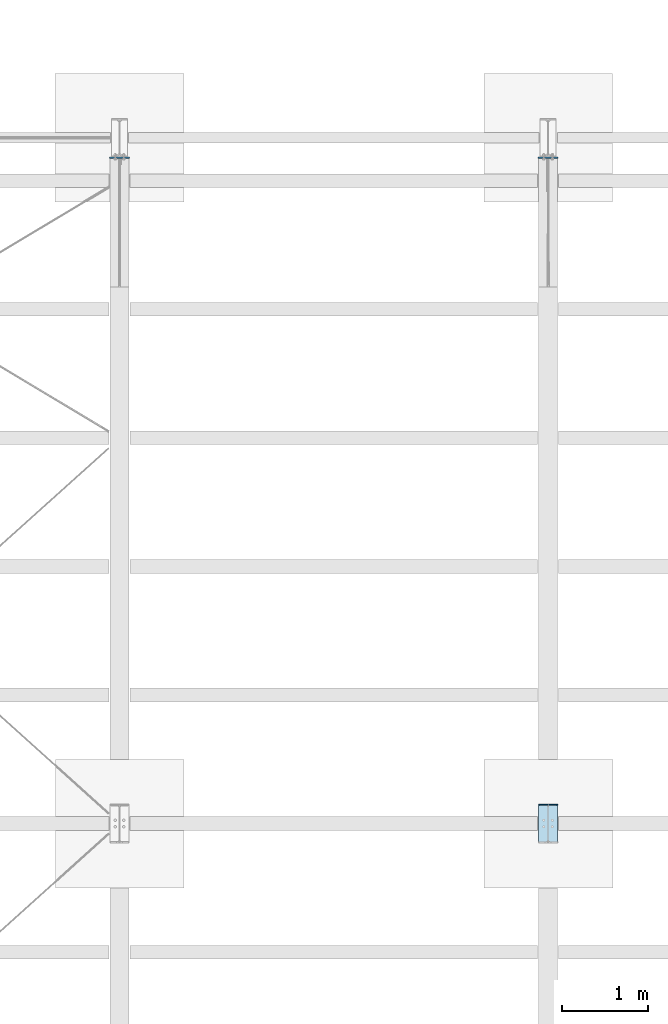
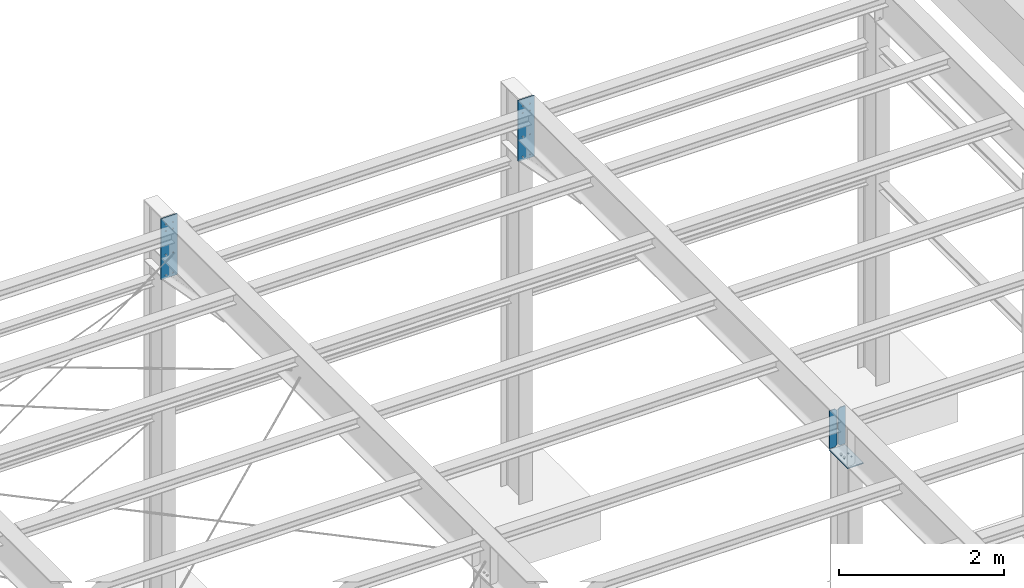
# Not in any storey, part 9 of 50: 5 plates, 24 openings.
"""IFC4 model written with IfcOpenShell, lengths in metres."""

from ifc_helpers import new_model, entity, si_unit, converted_unit, derived_unit, direction, frame, frame_2d, origin, origin_with_axes, origin_2d_with_axis, place, context, project, spatial, polyline, circle, outline, extrude, material, layer, layer_set, element, save


model = new_model("IFC4")

# Units and contexts
model_context = context("Model", 3, precision=1e-05, world=origin(), true_north=direction((6.123233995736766e-17, 1.0)))
ifc_project = project(units=[si_unit("LENGTHUNIT", "METRE"), si_unit("AREAUNIT", "SQUARE_METRE"), converted_unit("PLANEANGLEUNIT", "DEGREE", entity("IfcPlaneAngleMeasure", 0.017453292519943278), si_unit("PLANEANGLEUNIT", "RADIAN"), dimensions=[0, 0, 0, 0, 0, 0, 0]), si_unit("VOLUMEUNIT", "CUBIC_METRE"), derived_unit("THERMALTRANSMITTANCEUNIT", [(si_unit("MASSUNIT", "GRAM", prefix="KILO"), 1), (si_unit("THERMODYNAMICTEMPERATUREUNIT", "KELVIN"), -1), (si_unit("TIMEUNIT", "SECOND"), -3)])], contexts=[model_context])

# Site
site_placement = place(None, origin())
site = spatial("IfcSite", under=ifc_project, at=site_placement, Name="Default", CompositionType="ELEMENT")

# Plate, openings
ifc_material = material(Name="Dachdeckung - Blechdach")
ifc_layer_1 = layer(ifc_material, 15.0)
ifc_layer_set_1 = layer_set([ifc_layer_1], Name="Dachdeckung - Blechdach")
plate_1_placement = place(site_placement, frame((18.080144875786, 9.70476753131, 5.385), z_axis=(0.0, 0.0, 1.0), x_axis=(1.0, 0.0, 0.0)))
plate_1 = element("IfcPlate", 1, at=plate_1_placement, inside=site, material=ifc_layer_set_1, Name="Endplate", ObjectType="Endplate", context=model_context, shape_type="SweptSolid", body=[
    extrude(outline(polyline([(0.0, 0.0), (0.22, 0.0), (0.22, 0.45), (0.0, 0.45), (0.0, 0.0)])), origin_with_axes(), (0.0, 0.0, 1.0), 0.015),
])
opening_1_placement = place(plate_1_placement, frame((0.11, 0.225, -0.0005), z_axis=(0.0, 0.0, 1.0), x_axis=(0.0, 1.0, 0.0)))
element("IfcOpeningElement", 2, at=opening_1_placement, cuts=plate_1, ObjectType="Opening", context=model_context, shape_type="SweptSolid", body=[
    extrude(circle(Radius=0.009000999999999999, at=frame_2d((0.0375, 0.05), x_axis=(1.0, 0.0))), origin(), (0.0, 0.0, 1.0), 0.016),
])
opening_2_placement = place(plate_1_placement, frame((0.11, 0.225, -0.0005), z_axis=(0.0, 0.0, 1.0), x_axis=(0.0, 1.0, 0.0)))
element("IfcOpeningElement", 3, at=opening_2_placement, cuts=plate_1, ObjectType="Opening", context=model_context, shape_type="SweptSolid", body=[
    extrude(circle(Radius=0.009000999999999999, at=frame_2d((-0.0375, 0.05), x_axis=(1.0, 0.0))), origin(), (0.0, 0.0, 1.0), 0.016),
])
opening_3_placement = place(plate_1_placement, frame((0.11, 0.225, -0.0005), z_axis=(0.0, 0.0, 1.0), x_axis=(0.0, 1.0, 0.0)))
element("IfcOpeningElement", 4, at=opening_3_placement, cuts=plate_1, ObjectType="Opening", context=model_context, shape_type="SweptSolid", body=[
    extrude(circle(Radius=0.009000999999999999, at=frame_2d((0.0375, -0.05), x_axis=(1.0, 0.0))), origin(), (0.0, 0.0, 1.0), 0.016),
])
opening_4_placement = place(plate_1_placement, frame((0.11, 0.225, -0.0005), z_axis=(0.0, 0.0, 1.0), x_axis=(0.0, 1.0, 0.0)))
element("IfcOpeningElement", 5, at=opening_4_placement, cuts=plate_1, ObjectType="Opening", context=model_context, shape_type="SweptSolid", body=[
    extrude(circle(Radius=0.009000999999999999, at=frame_2d((-0.0375, -0.05), x_axis=(1.0, 0.0))), origin(), (0.0, 0.0, 1.0), 0.016),
])

ifc_layer_2 = layer(ifc_material, 14.0)
ifc_layer_set_2 = layer_set([ifc_layer_2], Name="Dachdeckung - Blechdach")
plate_2_placement = place(site_placement, frame((18.080144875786, 10.15476753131, 5.419), z_axis=(0.0, -1.0, 0.0), x_axis=(1.0, 0.0, 0.0)))
plate_2 = element("IfcPlate", 6, at=plate_2_placement, inside=site, material=ifc_layer_set_2, Name="Stiffener#1", ObjectType="Stiffener#1", context=model_context, shape_type="SweptSolid", body=[
    extrude(outline(polyline([(0.0, 0.0), (0.104, 0.0), (0.104, 0.562), (0.0, 0.562), (0.0, 0.0)])), origin_with_axes(), (0.0, 0.0, 1.0), 0.014),
])
opening_5_placement = place(plate_2_placement, frame((0.0, 0.0, -1e-05), z_axis=(0.0, 0.0, 1.0), x_axis=(1.0, 0.0, 0.0)))
element("IfcOpeningElement", 7, at=opening_5_placement, cuts=plate_2, ObjectType="Opening", context=model_context, shape_type="SweptSolid", body=[
    extrude(outline(polyline([(0.104, 0.562), (0.074, 0.562), (0.104, 0.532), (0.104, 0.562)])), origin(), (0.0, 0.0, 1.0), 0.01402),
])
opening_6_placement = place(plate_2_placement, frame((0.0, 0.0, -1e-05), z_axis=(0.0, 0.0, 1.0), x_axis=(1.0, 0.0, 0.0)))
element("IfcOpeningElement", 8, at=opening_6_placement, cuts=plate_2, ObjectType="Opening", context=model_context, shape_type="SweptSolid", body=[
    extrude(outline(polyline([(0.104, 0.0), (0.104, 0.03), (0.074, 0.0), (0.104, 0.0)])), origin(), (0.0, 0.0, 1.0), 0.01402),
])

plate_3_placement = place(site_placement, frame((18.196144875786, 10.15476753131, 5.419), z_axis=(0.0, -1.0, 0.0), x_axis=(1.0, 0.0, 0.0)))
plate_3 = element("IfcPlate", 9, at=plate_3_placement, inside=site, material=ifc_layer_set_2, Name="Stiffener#2", ObjectType="Stiffener#2", context=model_context, shape_type="SweptSolid", body=[
    extrude(outline(polyline([(0.0, 0.0), (0.104, 0.0), (0.104, 0.562), (0.0, 0.562), (0.0, 0.0)])), origin_with_axes(), (0.0, 0.0, 1.0), 0.014),
])
opening_7_placement = place(plate_3_placement, frame((0.0, 0.0, -1e-05), z_axis=(0.0, 0.0, 1.0), x_axis=(1.0, 0.0, 0.0)))
element("IfcOpeningElement", 10, at=opening_7_placement, cuts=plate_3, ObjectType="Opening", context=model_context, shape_type="SweptSolid", body=[
    extrude(outline(polyline([(0.0, 0.562), (0.0, 0.532), (0.03, 0.562), (0.0, 0.562)])), origin(), (0.0, 0.0, 1.0), 0.01402),
])
opening_8_placement = place(plate_3_placement, frame((0.0, 0.0, -1e-05), z_axis=(0.0, 0.0, 1.0), x_axis=(1.0, 0.0, 0.0)))
element("IfcOpeningElement", 11, at=opening_8_placement, cuts=plate_3, ObjectType="Opening", context=model_context, shape_type="SweptSolid", body=[
    extrude(outline(polyline([(0.0, 0.0), (0.03, 0.0), (0.0, 0.03), (0.0, 0.0)])), origin(), (0.0, 0.0, 1.0), 0.01402),
])

plate_4_placement = place(site_placement, frame((13.075144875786, 17.68976753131, 5.995), z_axis=(0.0, 1.0, 0.0), x_axis=(1.0, 0.0, 0.0)))
plate_4 = element("IfcPlate", 12, at=plate_4_placement, inside=site, material=ifc_layer_set_1, Name="Endplate", ObjectType="Endplate", context=model_context, shape_type="SweptSolid", body=[
    extrude(outline(polyline([(0.0, 0.0), (0.23, 0.0), (0.23, 0.9), (0.0, 0.9), (0.0, 0.0)])), origin_with_axes(), (0.0, 0.0, 1.0), 0.015),
])
opening_9_placement = place(plate_4_placement, frame((0.165, 0.2, 0.0155), z_axis=(0.0, 0.0, -1.0), x_axis=(1.0, 0.0, 0.0)))
element("IfcOpeningElement", 13, at=opening_9_placement, cuts=plate_4, ObjectType="Opening", context=model_context, shape_type="SweptSolid", body=[
    extrude(circle(Radius=0.009000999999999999, at=origin_2d_with_axis()), origin(), (0.0, 0.0, 1.0), 0.016),
])
opening_10_placement = place(plate_4_placement, frame((0.065, 0.2, 0.0155), z_axis=(0.0, 0.0, -1.0), x_axis=(1.0, 0.0, 0.0)))
element("IfcOpeningElement", 14, at=opening_10_placement, cuts=plate_4, ObjectType="Opening", context=model_context, shape_type="SweptSolid", body=[
    extrude(circle(Radius=0.009000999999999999, at=origin_2d_with_axis()), origin(), (0.0, 0.0, 1.0), 0.016),
])
opening_11_placement = place(plate_4_placement, frame((0.165, 0.55, 0.0155), z_axis=(0.0, 0.0, -1.0), x_axis=(1.0, 0.0, 0.0)))
element("IfcOpeningElement", 15, at=opening_11_placement, cuts=plate_4, ObjectType="Opening", context=model_context, shape_type="SweptSolid", body=[
    extrude(circle(Radius=0.009000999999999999, at=origin_2d_with_axis()), origin(), (0.0, 0.0, 1.0), 0.016),
])
opening_12_placement = place(plate_4_placement, frame((0.165, 0.85, 0.0155), z_axis=(0.0, 0.0, -1.0), x_axis=(1.0, 0.0, 0.0)))
element("IfcOpeningElement", 16, at=opening_12_placement, cuts=plate_4, ObjectType="Opening", context=model_context, shape_type="SweptSolid", body=[
    extrude(circle(Radius=0.009000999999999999, at=origin_2d_with_axis()), origin(), (0.0, 0.0, 1.0), 0.016),
])
opening_13_placement = place(plate_4_placement, frame((0.065, 0.55, 0.0155), z_axis=(0.0, 0.0, -1.0), x_axis=(1.0, 0.0, 0.0)))
element("IfcOpeningElement", 17, at=opening_13_placement, cuts=plate_4, ObjectType="Opening", context=model_context, shape_type="SweptSolid", body=[
    extrude(circle(Radius=0.009000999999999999, at=origin_2d_with_axis()), origin(), (0.0, 0.0, 1.0), 0.016),
])
opening_14_placement = place(plate_4_placement, frame((0.165, 0.1, 0.0155), z_axis=(0.0, 0.0, -1.0), x_axis=(1.0, 0.0, 0.0)))
element("IfcOpeningElement", 18, at=opening_14_placement, cuts=plate_4, ObjectType="Opening", context=model_context, shape_type="SweptSolid", body=[
    extrude(circle(Radius=0.009000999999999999, at=origin_2d_with_axis()), origin(), (0.0, 0.0, 1.0), 0.016),
])
opening_15_placement = place(plate_4_placement, frame((0.065, 0.1, 0.0155), z_axis=(0.0, 0.0, -1.0), x_axis=(1.0, 0.0, 0.0)))
element("IfcOpeningElement", 19, at=opening_15_placement, cuts=plate_4, ObjectType="Opening", context=model_context, shape_type="SweptSolid", body=[
    extrude(circle(Radius=0.009000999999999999, at=origin_2d_with_axis()), origin(), (0.0, 0.0, 1.0), 0.016),
])
opening_16_placement = place(plate_4_placement, frame((0.065, 0.85, 0.0155), z_axis=(0.0, 0.0, -1.0), x_axis=(1.0, 0.0, 0.0)))
element("IfcOpeningElement", 20, at=opening_16_placement, cuts=plate_4, ObjectType="Opening", context=model_context, shape_type="SweptSolid", body=[
    extrude(circle(Radius=0.009000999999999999, at=origin_2d_with_axis()), origin(), (0.0, 0.0, 1.0), 0.016),
])

plate_5_placement = place(site_placement, frame((18.075144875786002, 17.68976753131, 5.995), z_axis=(0.0, 1.0, 0.0), x_axis=(1.0, 0.0, 0.0)))
plate_5 = element("IfcPlate", 21, at=plate_5_placement, inside=site, material=ifc_layer_set_1, Name="Endplate", ObjectType="Endplate", context=model_context, shape_type="SweptSolid", body=[
    extrude(outline(polyline([(0.0, 0.0), (0.23, 0.0), (0.23, 0.9), (0.0, 0.9), (0.0, 0.0)])), origin_with_axes(), (0.0, 0.0, 1.0), 0.015),
])
opening_17_placement = place(plate_5_placement, frame((0.065, 0.85, 0.0155), z_axis=(0.0, 0.0, -1.0), x_axis=(1.0, 0.0, 0.0)))
element("IfcOpeningElement", 22, at=opening_17_placement, cuts=plate_5, ObjectType="Opening", context=model_context, shape_type="SweptSolid", body=[
    extrude(circle(Radius=0.009000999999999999, at=origin_2d_with_axis()), origin(), (0.0, 0.0, 1.0), 0.016),
])
opening_18_placement = place(plate_5_placement, frame((0.065, 0.55, 0.0155), z_axis=(0.0, 0.0, -1.0), x_axis=(1.0, 0.0, 0.0)))
element("IfcOpeningElement", 23, at=opening_18_placement, cuts=plate_5, ObjectType="Opening", context=model_context, shape_type="SweptSolid", body=[
    extrude(circle(Radius=0.009000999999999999, at=origin_2d_with_axis()), origin(), (0.0, 0.0, 1.0), 0.016),
])
opening_19_placement = place(plate_5_placement, frame((0.065, 0.2, 0.0155), z_axis=(0.0, 0.0, -1.0), x_axis=(1.0, 0.0, 0.0)))
element("IfcOpeningElement", 24, at=opening_19_placement, cuts=plate_5, ObjectType="Opening", context=model_context, shape_type="SweptSolid", body=[
    extrude(circle(Radius=0.009000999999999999, at=origin_2d_with_axis()), origin(), (0.0, 0.0, 1.0), 0.016),
])
opening_20_placement = place(plate_5_placement, frame((0.165, 0.1, 0.0155), z_axis=(0.0, 0.0, -1.0), x_axis=(1.0, 0.0, 0.0)))
element("IfcOpeningElement", 25, at=opening_20_placement, cuts=plate_5, ObjectType="Opening", context=model_context, shape_type="SweptSolid", body=[
    extrude(circle(Radius=0.009000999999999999, at=origin_2d_with_axis()), origin(), (0.0, 0.0, 1.0), 0.016),
])
opening_21_placement = place(plate_5_placement, frame((0.165, 0.85, 0.0155), z_axis=(0.0, 0.0, -1.0), x_axis=(1.0, 0.0, 0.0)))
element("IfcOpeningElement", 26, at=opening_21_placement, cuts=plate_5, ObjectType="Opening", context=model_context, shape_type="SweptSolid", body=[
    extrude(circle(Radius=0.009000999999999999, at=origin_2d_with_axis()), origin(), (0.0, 0.0, 1.0), 0.016),
])
opening_22_placement = place(plate_5_placement, frame((0.165, 0.2, 0.0155), z_axis=(0.0, 0.0, -1.0), x_axis=(1.0, 0.0, 0.0)))
element("IfcOpeningElement", 27, at=opening_22_placement, cuts=plate_5, ObjectType="Opening", context=model_context, shape_type="SweptSolid", body=[
    extrude(circle(Radius=0.009000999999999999, at=origin_2d_with_axis()), origin(), (0.0, 0.0, 1.0), 0.016),
])
opening_23_placement = place(plate_5_placement, frame((0.065, 0.1, 0.0155), z_axis=(0.0, 0.0, -1.0), x_axis=(1.0, 0.0, 0.0)))
element("IfcOpeningElement", 28, at=opening_23_placement, cuts=plate_5, ObjectType="Opening", context=model_context, shape_type="SweptSolid", body=[
    extrude(circle(Radius=0.009000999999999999, at=origin_2d_with_axis()), origin(), (0.0, 0.0, 1.0), 0.016),
])
opening_24_placement = place(plate_5_placement, frame((0.165, 0.55, 0.0155), z_axis=(0.0, 0.0, -1.0), x_axis=(1.0, 0.0, 0.0)))
element("IfcOpeningElement", 29, at=opening_24_placement, cuts=plate_5, ObjectType="Opening", context=model_context, shape_type="SweptSolid", body=[
    extrude(circle(Radius=0.009000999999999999, at=origin_2d_with_axis()), origin(), (0.0, 0.0, 1.0), 0.016),
])

save(model, "model.ifc")
